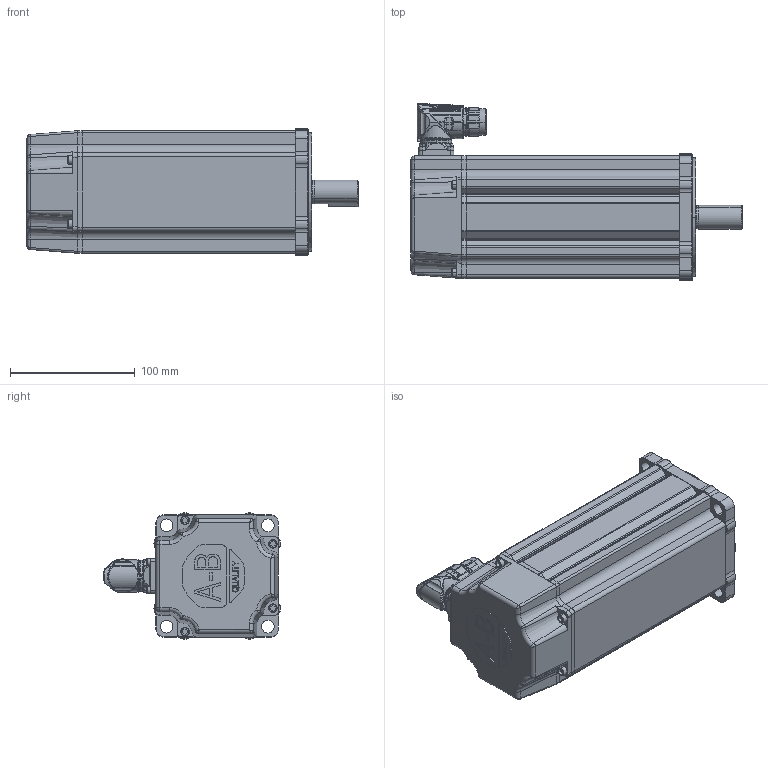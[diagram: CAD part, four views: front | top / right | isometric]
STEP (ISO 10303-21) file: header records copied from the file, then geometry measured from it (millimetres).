
FILE_DESCRIPTION (( 'STEP AP214' ), '1' );
FILE_NAME ('Rockwell Automation-$PARTNUMBER.STEP', '2014-02-18T14:09:20', ( 'Windows User' ), ( '' ), 'SwSTEP 2.0', 'SolidWorks 2014', '' );
FILE_SCHEMA (( 'AUTOMOTIVE_DESIGN' ));
Length unit declared in the file: inch
Products named in the file (9): Rockwell Automation-$PARTNUMBER_Rockwell Automation-VPL-x1153x-xJx4xx_M23_Connector; Rockwell Automation-$PARTNUMBER_Rockwell Automation-VPL-x1153x-xJx4xx_10000014326-M23_ASM; Rockwell Automation-$PARTNUMBER_Rockwell Automation-VPL-x1153x-xJx4xx_10000014326-1; Rockwell Automation-$PARTNUMBER_Rockwell Automation-VPL-x1153x-xJx4xx_10000014325-1; Rockwell Automation-$PARTNUMBER_Rockwell Automation-VPL-x1153x-xJx4xx_10000540833; Rockwell Automation-$PARTNUMBER_Rockwell Automation-VPL-x1153x-xJx4xx_VPL-115-Shaft_1153-SHAFT-KEYED-BRAKE; Rockwell Automation-$PARTNUMBER_Rockwell Automation-VPL-x1153x-xJx4xx_VPL-115-Body_1153-Brake; Rockwell Automation-$PARTNUMBER; Rockwell Automation-$PARTNUMBER_Rockwell Automation-VPL-x1153x-xJx4xx_91290A115_ANY
Assembly tree (11 placements, depth 4):
  Rockwell Automation-$PARTNUMBER
    Rockwell Automation-$PARTNUMBER_Rockwell Automation-VPL-x1153x-xJx4xx_VPL-115-Body_1153-Brake
    Rockwell Automation-$PARTNUMBER_Rockwell Automation-VPL-x1153x-xJx4xx_VPL-115-Shaft_1153-SHAFT-KEYED-BRAKE
    Rockwell Automation-$PARTNUMBER_Rockwell Automation-VPL-x1153x-xJx4xx_M23_Connector
      Rockwell Automation-$PARTNUMBER_Rockwell Automation-VPL-x1153x-xJx4xx_10000540833
      Rockwell Automation-$PARTNUMBER_Rockwell Automation-VPL-x1153x-xJx4xx_10000014325-1
      Rockwell Automation-$PARTNUMBER_Rockwell Automation-VPL-x1153x-xJx4xx_10000014326-M23_ASM
        Rockwell Automation-$PARTNUMBER_Rockwell Automation-VPL-x1153x-xJx4xx_10000014326-1
    Rockwell Automation-$PARTNUMBER_Rockwell Automation-VPL-x1153x-xJx4xx_91290A115_ANY  x4
Bounding box: 266.32 x 142 x 101.55 mm (x, y, z)
Volume: 927255.9 mm3; surface area: 235891.6 mm2
Topology: 11 solids, 17 shells, 2612 faces, 7244 edges, 4686 vertices
Faces by surface type: cylinder 831, plane 782, bspline 724, cone 255, torus 18, sphere 2
Entity records: 155425 total; most frequent: CARTESIAN_POINT 85463, ORIENTED_EDGE 14033, DIRECTION 8432, EDGE_CURVE 7023, VERTEX_POINT 4584, B_SPLINE_CURVE_WITH_KNOTS 3369, AXIS2_PLACEMENT_3D 3082, EDGE_LOOP 2673
